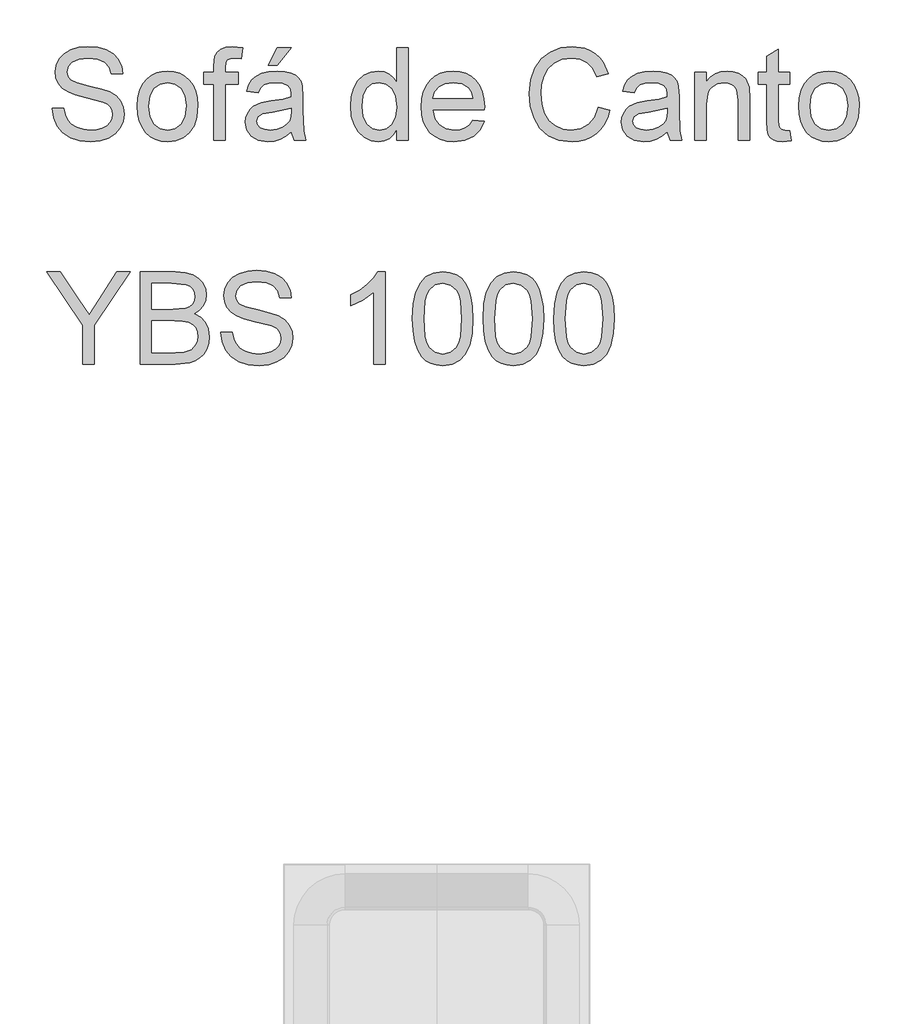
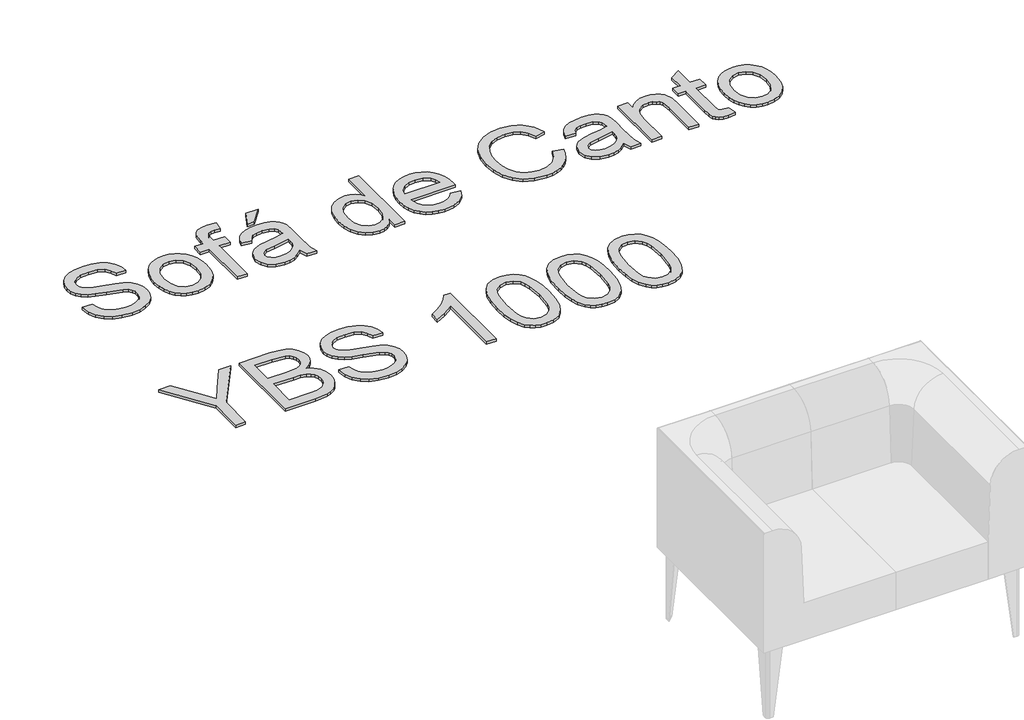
# One storey, part 18 of 26: 1 proxy.
"""IFC4 building model written with IfcOpenShell, lengths in millimetres."""

from ifc_helpers import new_model, si_unit, origin, origin_with_axes, place, context, project, spatial, polyline, outline, extrude, element, save

model = new_model("IFC4")

# Units and contexts
model_context = context("Model", 3, world=origin())
ifc_project = project(units=[si_unit("LENGTHUNIT", "METRE", prefix="MILLI")], contexts=[model_context])

# Site, building, storey
site = spatial("IfcSite", under=ifc_project)
building = spatial("IfcBuilding", under=site)
storey = spatial("IfcBuildingStorey", under=building, Name="Marelli - Linha YOUNG - Planta Baixa", Elevation=0.0)

# Proxy
placement = place(None, origin())
element("IfcBuildingElementProxy", 1, Name="300mm Arial", ObjectType="300mm Arial", at=placement, inside=storey, context=model_context, shape_type="SweptSolid", body=[
    extrude(outline(polyline([(24585.7785887, 188.9537033), (24623.449705, 188.9537033), (24627.7723184, 168.0488089), (24635.5898108, 151.2457988), (24647.7850989, 137.9100765), (24665.2410996, 127.4070455), (24686.5782553, 120.5920316), (24710.4170086, 118.3203602), (24731.4046764, 120.0402086), (24749.7803821, 125.1997535), (24764.6704059, 133.3667338), (24775.201028, 144.1088881), (24781.4642189, 156.442132), (24783.5519493, 169.3823812), (24781.9884508, 181.9915366), (24777.2979553, 192.8900407), (24767.7698117, 202.1882581), (24751.6933685, 209.9965534), (24696.842163, 224.3807394), (24660.8357127, 233.8996861), (24637.7971028, 242.9587802), (24619.0443181, 255.6323149), (24605.754581, 270.9913882), (24597.835921, 288.7049063), (24595.1963677, 308.4417753), (24598.4613204, 330.505498), (24608.2561786, 351.0792986), (24624.3234247, 368.5169052), (24646.4055415, 381.1720458), (24672.9114392, 388.8699765), (24702.2500283, 391.4359535), (24734.0350327, 388.7504149), (24761.8469115, 380.6937992), (24784.6923834, 367.4316533), (24801.578167, 349.129524), (24812.265139, 326.9278456), (24816.514176, 301.9670522), (24778.8430597, 301.9670522), (24771.9268782, 324.4446421), (24757.505904, 340.6682381), (24734.9731318, 350.4906874), (24703.7215563, 353.7648371), (24671.7342168, 350.5274756), (24649.7900558, 340.8153909), (24637.098127, 326.5231754), (24632.867484, 309.5454213), (24635.8657223, 295.0692648), (24644.8604371, 283.4257997), (24666.1240164, 273.0147392), (24706.3703067, 262.3829495), (24747.9041839, 252.2845888), (24773.0305242, 243.473815), (24794.5056357, 229.8069989), (24809.4876299, 212.9396094), (24818.2892067, 193.0555876), (24821.2230656, 170.3388744), (24817.8477483, 147.1163234), (24807.7217963, 125.2733299), (24791.2590771, 106.47456), (24768.8734577, 92.3846796), (24741.9536927, 83.5831028), (24711.8885366, 80.6492439), (24674.9807754, 83.8130291), (24644.6029197, 93.3043846), (24620.4054814, 109.1600986), (24602.0389728, 131.4169593), (24590.2483549, 158.5298623), (24585.7785887, 188.9537033)])), origin_with_axes(), (0.0, 0.0, 1.0), 10.0),
    extrude(outline(polyline([(24863.6030714, 196.0170376), (24865.640218, 224.6796436), (24871.7516576, 249.378321), (24881.9373903, 270.11307), (24896.1974162, 286.8838904), (24910.554011, 297.6030521), (24926.400528, 305.2595961), (24943.736967, 309.8535225), (24962.5633281, 311.3848313), (24983.3463616, 309.5201294), (25002.1382337, 303.9260239), (25018.9389446, 294.6025145), (25033.7484942, 281.5496015), (25045.835717, 265.2087431), (25054.4694476, 246.0213978), (25059.6496859, 223.9875656), (25061.376432, 199.1072464), (25058.3230115, 161.049854), (25049.1627498, 132.0791469), (25034.1623614, 110.3833062), (25013.5885608, 94.1505132), (24989.1519993, 84.0245612), (24962.5633281, 80.6492439), (24941.476792, 82.507048), (24922.5101759, 88.0804602), (24905.6634798, 97.3694806), (24890.9367037, 110.3741091), (24878.9782395, 126.8736166), (24870.4364795, 146.6472739), (24865.3114234, 169.6950809), (24863.6030714, 196.0170376)]), holes=[polyline([(24901.2741877, 196.090614), (24905.6335894, 161.9971501), (24918.7117943, 137.7077414), (24938.393481, 123.1672055), (24962.5633281, 118.3203602), (24986.6228106, 123.1947967), (25006.2677091, 137.818106), (25019.3459141, 162.4294115), (25023.7053157, 197.2678364), (25019.3183229, 230.3680189), (25006.1573445, 254.3263339), (24986.4848548, 268.8668697), (24962.5633281, 273.713715), (24938.393481, 268.8852638), (24918.7117943, 254.3999103), (24905.6335894, 230.1656838), (24901.2741877, 196.090614)])]), origin_with_axes(), (0.0, 0.0, 1.0), 10.0),
    extrude(outline(polyline([(25113.1742169, 85.3581335), (25113.1742169, 269.0048255), (25080.2119902, 269.0048255), (25080.2119902, 306.6759418), (25113.1742169, 306.6759418), (25113.1742169, 328.9695907), (25117.1473425, 360.3867131), (25124.7257116, 372.913095), (25136.424359, 382.8275148), (25152.7951078, 389.2838438), (25174.3897809, 391.4359535), (25208.7499593, 387.3156751), (25203.2317294, 351.9990036), (25181.5266916, 353.7648371), (25167.206885, 352.2013387), (25157.798303, 347.5108432), (25152.5835757, 338.5529166), (25150.8453332, 324.1871247), (25150.8453332, 306.6759418), (25193.2253391, 306.6759418), (25193.2253391, 269.0048255), (25150.8453332, 269.0048255), (25150.8453332, 85.3581335), (25113.1742169, 85.3581335)])), origin_with_axes(), (0.0, 0.0, 1.0), 10.0),
    extrude(outline(polyline([(25367.454252, 113.6114707), (25349.4556254, 98.178821), (25330.9235699, 88.0804602), (25311.4350212, 82.507048), (25290.566915, 80.6492439), (25259.0854133, 85.1190102), (25235.8628623, 98.5283089), (25221.5430557, 118.8905773), (25216.7697868, 144.2192527), (25218.5724086, 159.8358434), (25223.9802739, 174.0176943), (25232.3219981, 186.1578001), (25242.9261966, 195.6491556), (25269.3033357, 208.0099907), (25301.8976805, 213.6753734), (25340.4149254, 219.6350617), (25367.2335228, 226.6248196), (25367.454252, 235.0125291), (25364.8606839, 251.8247363), (25357.0799797, 262.8244079), (25339.6791614, 270.9913882), (25315.4357379, 273.713715), (25292.9949362, 271.9018962), (25277.3231632, 266.4664397), (25266.6361912, 256.4140642), (25259.1497926, 240.7514882), (25221.4786763, 245.4603778), (25228.0177788, 266.0617695), (25237.7758487, 282.2485773), (25251.663394, 294.6278064), (25270.5909227, 303.8064622), (25293.7398972, 309.490239), (25320.2917802, 311.3848313), (25345.7584113, 309.7109682), (25365.9459358, 304.689379), (25381.1670534, 297.138601), (25391.7344637, 287.8771718), (25398.7426157, 276.4268447), (25403.2859583, 262.3093731), (25405.1253683, 229.3471464), (25405.1253683, 182.4789802), (25407.0383547, 117.0327733), (25414.5431474, 85.3581335), (25376.8720311, 85.3581335), (25367.454252, 113.6114707)]), holes=[polyline([(25367.454252, 188.9537033), (25306.6801464, 177.4022087), (25274.2697426, 171.2953675), (25259.591251, 161.3625537), (25254.4409031, 146.8680031), (25257.2460033, 135.6659963), (25265.6613039, 126.4873405), (25279.502864, 120.3621053), (25298.5867425, 118.3203602), (25318.8202522, 120.5736375), (25336.6993172, 127.3334691), (25351.1938678, 137.2938741), (25361.2738345, 149.1488714), (25365.7436007, 161.3625537), (25367.2335228, 178.2851254), (25367.454252, 188.9537033)])]), origin_with_axes(), (0.0, 0.0, 1.0), 10.0),
    extrude(outline(polyline([(25292.1120194, 330.2203895), (25320.3653566, 386.7270639), (25367.454252, 386.7270639), (25320.3653566, 330.2203895), (25292.1120194, 330.2203895)])), origin_with_axes(), (0.0, 0.0, 1.0), 10.0),
    extrude(outline(polyline([(25711.2031883, 85.3581335), (25711.2031883, 120.8955342), (25699.9322037, 103.2877822), (25686.2791831, 90.7108165), (25670.2441267, 83.1646371), (25651.8270343, 80.6492439), (25627.4732462, 84.2912757), (25605.1795973, 95.2173709), (25586.3072509, 112.6641746), (25572.2173705, 135.8683314), (25563.4433849, 163.8917424), (25560.5187231, 195.7963084), (25563.2134587, 227.3054013), (25571.2976655, 255.7610736), (25584.7621466, 279.5446446), (25603.5977047, 297.0374335), (25626.3787973, 307.7979819), (25651.6798815, 311.3848313), (25670.1107694, 308.8188544), (25686.4079418, 301.1209236), (25700.2219107, 289.3211086), (25711.2031883, 274.449479), (25711.2031883, 386.7270639), (25748.8743046, 386.7270639), (25748.8743046, 85.3581335), (25711.2031883, 85.3581335)]), holes=[polyline([(25598.1898394, 195.9434612), (25602.4388764, 161.8683914), (25615.1859876, 137.634165), (25633.708846, 123.1488114), (25655.285125, 118.3203602), (25676.852207, 122.9280822), (25694.9060159, 136.7512482), (25707.1288952, 160.0473755), (25711.2031883, 193.0739817), (25707.0553188, 229.1815995), (25694.6117103, 254.2159693), (25676.0980489, 268.8392786), (25653.7400207, 273.713715), (25631.9430124, 269.0324166), (25614.0823416, 254.9885214), (25602.1629649, 230.8646596), (25598.1898394, 195.9434612)])]), origin_with_axes(), (0.0, 0.0, 1.0), 10.0),
    extrude(outline(polyline([(25960.3328754, 151.282587), (25997.2682277, 146.5736975), (25983.9600966, 118.7434245), (25962.7241084, 97.9396977), (25934.0385098, 84.9718574), (25898.3815474, 80.6492439), (25875.0072452, 82.5139458), (25854.1805257, 88.1080514), (25835.9013891, 97.4315607), (25820.1698353, 110.4844737), (25807.5192932, 126.903507), (25798.4831917, 146.3253771), (25793.0615307, 168.750084), (25791.2543104, 194.1776276), (25793.0799248, 220.4673947), (25798.5567681, 243.6393619), (25807.6848401, 263.6935292), (25820.4641409, 280.6298965), (25836.154308, 294.0851805), (25854.0149788, 303.6960976), (25874.0461535, 309.4626479), (25896.2478319, 311.3848313), (25917.7344397, 309.4672464), (25937.1655068, 303.7144917), (25954.5410333, 294.1265672), (25969.8610191, 280.7034729), (25982.3667077, 263.8038938), (25991.2993424, 243.7865147), (25996.6589232, 220.6513357), (25998.4454501, 194.3983568), (25998.2247209, 184.2448138), (25828.9254268, 184.2448138), (25835.4461351, 156.0466588), (25850.5936763, 135.3165084), (25872.4550638, 122.5693973), (25899.1173114, 118.3203602), (25919.1668802, 120.2885289), (25936.0526637, 126.1930349), (25949.7746622, 136.4017603), (25960.3328754, 151.282587)]), holes=[polyline([(25828.9254268, 221.9159301), (25960.7743338, 221.9159301), (25955.6791682, 241.818346), (25945.691172, 256.0553792), (25923.7286169, 269.2991311), (25896.1006791, 273.713715), (25870.7076244, 270.1912449), (25849.7107595, 259.6238346), (25835.1150413, 243.1519182), (25828.9254268, 221.9159301)])]), origin_with_axes(), (0.0, 0.0, 1.0), 10.0),
    extrude(outline(polyline([(26370.4477237, 192.4853705), (26408.11884, 182.7732858), (26400.664631, 159.3461005), (26390.7364157, 138.8757667), (26378.3341939, 121.3622845), (26363.4579657, 106.8056538), (26346.4434235, 95.3622245), (26327.6262594, 87.1883464), (26307.0064736, 82.2840195), (26284.584066, 80.6492439), (26240.888882, 85.5972568), (26206.1884128, 100.4412953), (26179.5905446, 124.6663247), (26160.2031634, 157.7573101), (26148.3665602, 196.6608311), (26144.4210258, 238.3234671), (26148.881595, 282.2669714), (26162.2633026, 320.2139992), (26183.8671728, 350.9597369), (26212.9942297, 373.2993711), (26247.5383491, 386.9018079), (26285.3934064, 391.4359535), (26326.6973574, 385.5682356), (26344.6660936, 378.2335884), (26360.8460036, 367.9650822), (26374.9703729, 355.03403), (26386.7724872, 339.7117449), (26403.4099504, 301.8934758), (26365.7388341, 292.9171551), (26352.6790233, 320.3887431), (26334.8367465, 339.2334983), (26311.9912746, 350.1320024), (26283.9218784, 353.7648371), (26251.5666569, 349.7365293), (26224.9871828, 337.6516058), (26204.8180524, 318.7792594), (26191.6938622, 294.3886831), (26184.4925721, 266.8159276), (26182.0921421, 238.3970435), (26184.9340305, 203.5954067), (26193.4596958, 173.5026595), (26207.9910346, 149.2684331), (26228.8499437, 132.0423587), (26253.8567223, 121.7508598), (26280.8316696, 118.3203602), (26312.2763832, 122.9924616), (26338.4787783, 137.0087656), (26358.2616326, 160.2221195), (26370.4477237, 192.4853705)])), origin_with_axes(), (0.0, 0.0, 1.0), 10.0),
    extrude(outline(polyline([(26596.4744215, 113.6114707), (26578.4757949, 98.178821), (26559.9437394, 88.0804602), (26540.4551907, 82.507048), (26519.5870845, 80.6492439), (26488.1055828, 85.1190102), (26464.8830318, 98.5283089), (26450.5632252, 118.8905773), (26445.7899563, 144.2192527), (26447.592578, 159.8358434), (26453.0004434, 174.0176943), (26461.3421676, 186.1578001), (26471.9463661, 195.6491556), (26498.3235052, 208.0099907), (26530.91785, 213.6753734), (26569.4350948, 219.6350617), (26596.2536923, 226.6248196), (26596.4744215, 235.0125291), (26593.8808534, 251.8247363), (26586.1001492, 262.8244079), (26568.6993309, 270.9913882), (26544.4559074, 273.713715), (26522.0151057, 271.9018962), (26506.3433327, 266.4664397), (26495.6563607, 256.4140642), (26488.1699621, 240.7514882), (26450.4988458, 245.4603778), (26457.0379483, 266.0617695), (26466.7960182, 282.2485773), (26480.6835635, 294.6278064), (26499.6110922, 303.8064622), (26522.7600667, 309.490239), (26549.3119497, 311.3848313), (26574.7785808, 309.7109682), (26594.9661053, 304.689379), (26610.1872229, 297.138601), (26620.7546332, 287.8771718), (26627.7627852, 276.4268447), (26632.3061278, 262.3093731), (26634.1455378, 229.3471464), (26634.1455378, 182.4789802), (26636.0585242, 117.0327733), (26643.5633169, 85.3581335), (26605.8922006, 85.3581335), (26596.4744215, 113.6114707)]), holes=[polyline([(26596.4744215, 188.9537033), (26535.7003159, 177.4022087), (26503.2899121, 171.2953675), (26488.6114205, 161.3625537), (26483.4610726, 146.8680031), (26486.2661728, 135.6659963), (26494.6814734, 126.4873405), (26508.5230335, 120.3621053), (26527.606912, 118.3203602), (26547.8404217, 120.5736375), (26565.7194867, 127.3334691), (26580.2140373, 137.2938741), (26590.294004, 149.1488714), (26594.7637702, 161.3625537), (26596.2536923, 178.2851254), (26596.4744215, 188.9537033)])]), origin_with_axes(), (0.0, 0.0, 1.0), 10.0),
    extrude(outline(polyline([(26685.9433227, 85.3581335), (26685.9433227, 306.6759418), (26723.614439, 306.6759418), (26723.614439, 275.7738542), (26736.701841, 291.3536567), (26752.4195992, 302.482087), (26770.7677138, 309.1591452), (26791.7461845, 311.3848313), (26810.3150282, 309.5914066), (26827.3203735, 304.2111324), (26841.5022244, 295.9153934), (26851.6005851, 285.3755742), (26862.8945624, 257.67406), (26864.8811252, 221.2537425), (26864.8811252, 85.3581335), (26827.2100089, 85.3581335), (26827.2100089, 216.176971), (26822.8690013, 249.5070797), (26816.8633278, 259.4306965), (26807.5283221, 267.1286273), (26795.5629602, 272.0674431), (26781.6662179, 273.713715), (26759.6024952, 270.0165009), (26740.7945282, 258.9248588), (26733.2782392, 249.8703632), (26727.9094613, 237.4957326), (26723.614439, 202.7860663), (26723.614439, 85.3581335), (26685.9433227, 85.3581335)])), origin_with_axes(), (0.0, 0.0, 1.0), 10.0),
    extrude(outline(polyline([(26996.7300322, 116.7752559), (27001.4389218, 84.2544875), (26973.259161, 80.6492439), (26955.1777609, 82.2127424), (26941.6948858, 86.9032378), (26932.1667421, 94.1321191), (26925.9495364, 103.3107748), (26922.5282338, 119.0745183), (26921.3877996, 146.0586627), (26921.3877996, 269.0048255), (26893.1344624, 269.0048255), (26893.1344624, 306.6759418), (26921.3877996, 306.6759418), (26921.3877996, 360.4602895), (26959.0589159, 382.6067856), (26959.0589159, 306.6759418), (26996.7300322, 306.6759418), (26996.7300322, 269.0048255), (26959.0589159, 269.0048255), (26959.0589159, 147.1623087), (26961.0454787, 127.7381393), (26967.4834136, 120.858746), (26980.3224953, 118.3203602), (26996.7300322, 116.7752559)])), origin_with_axes(), (0.0, 0.0, 1.0), 10.0),
    extrude(outline(polyline([(27024.9833695, 196.0170376), (27027.020516, 224.6796436), (27033.1319557, 249.378321), (27043.3176884, 270.11307), (27057.5777142, 286.8838904), (27071.9343091, 297.6030521), (27087.780826, 305.2595961), (27105.1172651, 309.8535225), (27123.9436262, 311.3848313), (27144.7266596, 309.5201294), (27163.5185318, 303.9260239), (27180.3192427, 294.6025145), (27195.1287922, 281.5496015), (27207.216015, 265.2087431), (27215.8497456, 246.0213978), (27221.029984, 223.9875656), (27222.7567301, 199.1072464), (27219.7033095, 161.049854), (27210.5430478, 132.0791469), (27195.5426595, 110.3833062), (27174.9688589, 94.1505132), (27150.5322974, 84.0245612), (27123.9436262, 80.6492439), (27102.8570901, 82.507048), (27083.890474, 88.0804602), (27067.0437778, 97.3694806), (27052.3170017, 110.3741091), (27040.3585376, 126.8736166), (27031.8167775, 146.6472739), (27026.6917215, 169.6950809), (27024.9833695, 196.0170376)]), holes=[polyline([(27062.6544858, 196.090614), (27067.0138874, 161.9971501), (27080.0920924, 137.7077414), (27099.7737791, 123.1672055), (27123.9436262, 118.3203602), (27148.0031087, 123.1947967), (27167.6480072, 137.818106), (27180.7262121, 162.4294115), (27185.0856138, 197.2678364), (27180.698621, 230.3680189), (27167.5376426, 254.3263339), (27147.8651529, 268.8668697), (27123.9436262, 273.713715), (27099.7737791, 268.8852638), (27080.0920924, 254.3999103), (27067.0138874, 230.1656838), (27062.6544858, 196.090614)])]), origin_with_axes(), (0.0, 0.0, 1.0), 10.0),
    extrude(outline(polyline([(24684.665269, -646.4907736), (24684.665269, -518.8357213), (24566.9430305, -345.1218432), (24611.3831755, -345.1218432), (24674.2174203, -437.9016823), (24706.3703067, -485.2113069), (24738.5967694, -434.517168), (24795.6184787, -345.1218432), (24840.0586237, -345.1218432), (24722.3363853, -518.8357213), (24722.3363853, -646.4907736), (24684.665269, -646.4907736)])), origin_with_axes(), (0.0, 0.0, 1.0), 10.0),
    extrude(outline(polyline([(24873.0208505, -646.4907736), (24873.0208505, -345.1218432), (24988.0207622, -345.1218432), (25019.6494167, -347.3383322), (25044.3434956, -353.9877992), (25063.2710243, -365.2357912), (25077.600028, -381.2478551), (25086.6223339, -400.0834132), (25089.6297692, -419.8018882), (25087.1005805, -437.9476676), (25079.5130144, -455.0081951), (25066.8118885, -469.9350071), (25048.9420206, -481.6796398), (25070.2883734, -492.8264642), (25086.0613139, -509.7858242), (25095.8009897, -531.4356796), (25099.0475483, -556.6539904), (25096.8310593, -577.6692494), (25090.1815922, -597.1577981), (25080.2579754, -613.7308819), (25068.2190371, -625.9997465), (25053.4761662, -634.8840967), (25035.4407514, -641.3036375), (24987.1378454, -646.4907736), (24873.0208505, -646.4907736)]), holes=[polyline([(24910.6919668, -467.5529711), (24979.4858999, -467.5529711), (25019.6586138, -464.3156096), (25033.720903, -458.7330003), (25043.8284608, -450.372882), (25049.9261049, -439.3640133), (25051.9586529, -425.8351529), (25050.0640607, -412.7017657), (25044.3802838, -401.2606356), (25035.1648399, -392.3303002), (25022.6752461, -386.7292968), (24974.2619756, -382.7929595), (24910.6919668, -382.7929595), (24910.6919668, -467.5529711)]), polyline([(24910.6919668, -608.8196573), (24987.9471858, -608.8196573), (25015.9062174, -607.3481293), (25039.5610297, -599.1443608), (25055.2328027, -582.40573), (25059.8405247, -570.5783239), (25061.376432, -557.0218724), (25059.5738102, -541.276523), (25054.1659449, -527.7384656), (25044.7205747, -517.1526611), (25030.8054382, -510.2640708), (25011.0961603, -506.4840833), (24984.2683658, -505.2240875), (24910.6919668, -505.2240875), (24910.6919668, -608.8196573)])]), origin_with_axes(), (0.0, 0.0, 1.0), 10.0),
    extrude(outline(polyline([(25136.7186646, -542.8952038), (25174.3897809, -542.8952038), (25178.7123944, -563.8000981), (25186.5298868, -580.6031083), (25198.7251749, -593.9388306), (25216.1811756, -604.4418616), (25237.5183313, -611.2568755), (25261.3570846, -613.5285468), (25282.3447524, -611.8086985), (25300.7204581, -606.6491535), (25315.6104818, -598.4821732), (25326.1411039, -587.740019), (25332.4042949, -575.4067751), (25334.4920252, -562.4665259), (25332.9285268, -549.8573705), (25328.2380313, -538.9588664), (25318.7098876, -529.660649), (25302.6334445, -521.8523536), (25247.782239, -507.4681676), (25211.7757887, -497.949221), (25188.7371787, -488.8901269), (25169.984394, -476.2165921), (25156.694657, -460.8575188), (25148.775997, -443.1440008), (25146.1364437, -423.4071317), (25149.4013964, -401.3434091), (25159.1962545, -380.7696085), (25175.2635007, -363.3320019), (25197.3456174, -350.6768613), (25223.8515152, -342.9789305), (25253.1901043, -340.4129536), (25284.9751087, -343.0984922), (25312.7869875, -351.1551079), (25335.6324594, -364.4172538), (25352.518243, -382.7193831), (25363.205215, -404.9210615), (25367.454252, -429.8818548), (25329.7831357, -429.8818548), (25322.8669542, -407.4042649), (25308.44598, -391.180669), (25285.9132078, -381.3582197), (25254.6616323, -378.0840699), (25222.6742928, -381.3214315), (25200.7301318, -391.0335162), (25188.038203, -405.3257317), (25183.80756, -422.3034857), (25186.8057983, -436.7796423), (25195.8005131, -448.4231074), (25217.0640924, -458.8341679), (25257.3103826, -469.4659575), (25298.8442599, -479.5643183), (25323.9706002, -488.3750921), (25345.4457116, -502.0419082), (25360.4277059, -518.9092977), (25369.2292826, -538.7933195), (25372.1631415, -561.5100327), (25368.7878242, -584.7325837), (25358.6618723, -606.5755771), (25342.199153, -625.3743471), (25319.8135336, -639.4642275), (25292.8937686, -648.2658042), (25262.8286126, -651.1996631), (25225.9208514, -648.035878), (25195.5429957, -638.5445225), (25171.3455574, -622.6888085), (25152.9790488, -600.4319478), (25141.1884309, -573.3190448), (25136.7186646, -542.8952038)])), origin_with_axes(), (0.0, 0.0, 1.0), 10.0),
    extrude(outline(polyline([(25673.532072, -646.4907736), (25635.8609557, -646.4907736), (25635.8609557, -411.6349079), (25600.1764022, -437.0555537), (25560.5187231, -456.0750529), (25560.5187231, -420.4640758), (25590.1056325, -404.3692385), (25615.7378105, -385.2209806), (25635.9437291, -364.8587122), (25649.2518603, -345.1218432), (25673.532072, -345.1218432), (25673.532072, -646.4907736)])), origin_with_axes(), (0.0, 0.0, 1.0), 10.0),
    extrude(outline(polyline([(25763.0009732, -498.2343295), (25765.7692852, -449.9958029), (25774.0742213, -411.5245433), (25787.8330079, -382.2319394), (25806.9628716, -361.5293801), (25831.6017683, -349.2237274), (25861.8876535, -345.1218432), (25885.1010074, -347.5498643), (25905.8863401, -354.8339278), (25923.2687644, -366.6889251), (25936.2733929, -382.8297477), (25946.0958422, -403.1184397), (25953.9317287, -427.4170455), (25959.0636825, -458.2731478), (25960.7743338, -498.2343295), (25958.033613, -546.1969447), (25949.8114504, -584.5762338), (25936.1354372, -613.8964288), (25917.0331646, -634.6817616), (25892.3390857, -647.0701877), (25861.8876535, -651.1996631), (25841.139109, -649.4062384), (25822.7450092, -644.0259642), (25806.7053542, -635.0588406), (25793.020144, -622.5048675), (25779.8867568, -599.8111469), (25770.5057659, -571.5348171), (25764.8771714, -537.675878), (25763.0009732, -498.2343295)]), holes=[polyline([(25800.6720895, -498.1607531), (25805.0866735, -557.4173455), (25810.6049034, -577.6853442), (25818.3304253, -591.7131445), (25838.0489002, -608.0746963), (25861.8876535, -613.5285468), (25885.7264068, -608.0563022), (25905.4448818, -591.6395681), (25913.1704036, -577.5887752), (25918.6886336, -557.325375), (25923.1032175, -498.1607531), (25918.8357864, -440.237733), (25913.5014974, -420.0364129), (25906.0334929, -405.6752196), (25886.3518062, -388.5135245), (25861.4461951, -382.7929595), (25837.8649592, -387.8329428), (25818.9190365, -402.9528928), (25810.9359972, -418.5878776), (25805.2338263, -439.6675159), (25800.6720895, -498.1607531)])]), origin_with_axes(), (0.0, 0.0, 1.0), 10.0),
    extrude(outline(polyline([(25993.7365606, -498.2343295), (25996.5048726, -449.9958029), (26004.8098086, -411.5245433), (26018.5685953, -382.2319394), (26037.698459, -361.5293801), (26062.3373556, -349.2237274), (26092.6232409, -345.1218432), (26115.8365948, -347.5498643), (26136.6219275, -354.8339278), (26154.0043518, -366.6889251), (26167.0089803, -382.8297477), (26176.8314296, -403.1184397), (26184.6673161, -427.4170455), (26189.7992699, -458.2731478), (26191.5099212, -498.2343295), (26188.7692003, -546.1969447), (26180.5470377, -584.5762338), (26166.8710246, -613.8964288), (26147.768752, -634.6817616), (26123.074673, -647.0701877), (26092.6232409, -651.1996631), (26071.8746964, -649.4062384), (26053.4805966, -644.0259642), (26037.4409416, -635.0588406), (26023.7557314, -622.5048675), (26010.6223442, -599.8111469), (26001.2413533, -571.5348171), (25995.6127588, -537.675878), (25993.7365606, -498.2343295)]), holes=[polyline([(26031.4076769, -498.1607531), (26035.8222608, -557.4173455), (26041.3404908, -577.6853442), (26049.0660127, -591.7131445), (26068.7844876, -608.0746963), (26092.6232409, -613.5285468), (26116.4619942, -608.0563022), (26136.1804691, -591.6395681), (26143.905991, -577.5887752), (26149.424221, -557.325375), (26153.8388049, -498.1607531), (26149.5713737, -440.237733), (26144.2370848, -420.0364129), (26136.7690803, -405.6752196), (26117.0873936, -388.5135245), (26092.1817825, -382.7929595), (26068.6005466, -387.8329428), (26049.6546239, -402.9528928), (26041.6715846, -418.5878776), (26035.9694136, -439.6675159), (26031.4076769, -498.1607531)])]), origin_with_axes(), (0.0, 0.0, 1.0), 10.0),
    extrude(outline(polyline([(26224.472148, -498.2343295), (26227.24046, -449.9958029), (26235.545396, -411.5245433), (26249.3041826, -382.2319394), (26268.4340464, -361.5293801), (26293.072943, -349.2237274), (26323.3588283, -345.1218432), (26346.5721822, -347.5498643), (26367.3575149, -354.8339278), (26384.7399392, -366.6889251), (26397.7445677, -382.8297477), (26407.567017, -403.1184397), (26415.4029035, -427.4170455), (26420.5348573, -458.2731478), (26422.2455086, -498.2343295), (26419.5047877, -546.1969447), (26411.2826251, -584.5762338), (26397.6066119, -613.8964288), (26378.5043393, -634.6817616), (26353.8102604, -647.0701877), (26323.3588283, -651.1996631), (26302.6102837, -649.4062384), (26284.216184, -644.0259642), (26268.176529, -635.0588406), (26254.4913188, -622.5048675), (26241.3579315, -599.8111469), (26231.9769407, -571.5348171), (26226.3483461, -537.675878), (26224.472148, -498.2343295)]), holes=[polyline([(26262.1432643, -498.1607531), (26266.5578482, -557.4173455), (26272.0760781, -577.6853442), (26279.8016, -591.7131445), (26299.520075, -608.0746963), (26323.3588283, -613.5285468), (26347.1975816, -608.0563022), (26366.9160565, -591.6395681), (26374.6415784, -577.5887752), (26380.1598083, -557.325375), (26384.5743923, -498.1607531), (26380.3069611, -440.237733), (26374.9726722, -420.0364129), (26367.5046677, -405.6752196), (26347.822981, -388.5135245), (26322.9173699, -382.7929595), (26299.336134, -387.8329428), (26280.3902112, -402.9528928), (26272.4071719, -418.5878776), (26266.705001, -439.6675159), (26262.1432643, -498.1607531)])]), origin_with_axes(), (0.0, 0.0, 1.0), 10.0),
])

save(model, "model.ifc")
